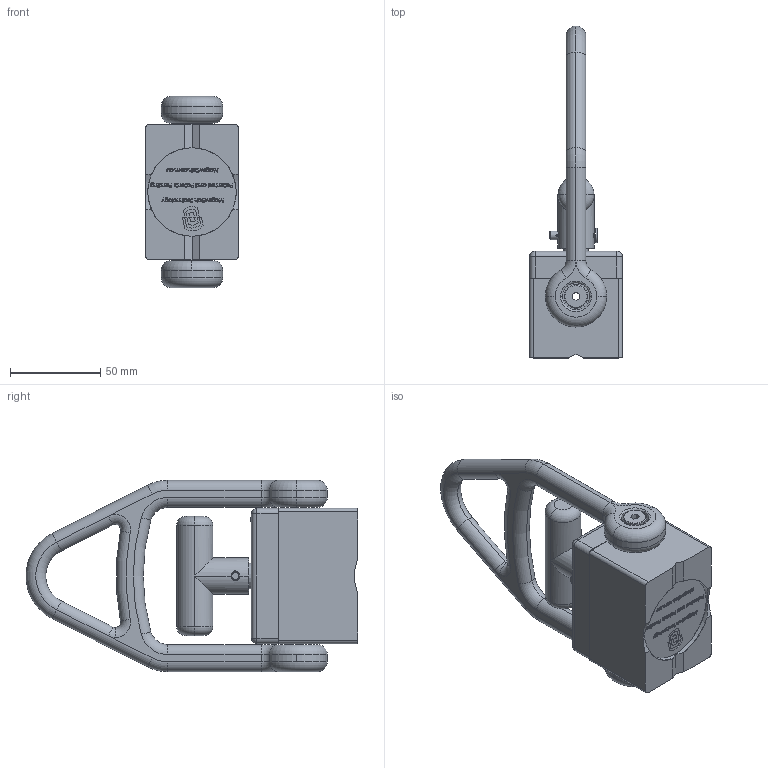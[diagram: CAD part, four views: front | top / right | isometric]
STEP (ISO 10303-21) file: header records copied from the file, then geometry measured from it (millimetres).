
FILE_DESCRIPTION (( 'STEP AP214' ), '1' );
FILE_NAME ('8100089_p.STEP', '2016-02-09T19:49:18', ( '' ), ( '' ), 'SwSTEP 2.0', 'SolidWorks 2013', '' );
FILE_SCHEMA (( 'AUTOMOTIVE_DESIGN' ));
Length unit declared in the file: millimetre
Products named in the file (1): 8100089_p
Bounding box: 51.5 x 183.9 x 106 mm (x, y, z)
Surface area: 51952.1 mm2 (no closed solid volume)
Topology: 0 solids, 27 shells, 580 faces, 2400 edges, 1793 vertices
Faces by surface type: plane 267, bspline 122, cylinder 76, torus 57, cone 54, sphere 4
Entity records: 40273 total; most frequent: CARTESIAN_POINT 16159, ORIENTED_EDGE 3391, DIRECTION 3017, EDGE_CURVE 2394, VERTEX_POINT 1793, LINE 1331, VECTOR 1331, AXIS2_PLACEMENT_3D 843
